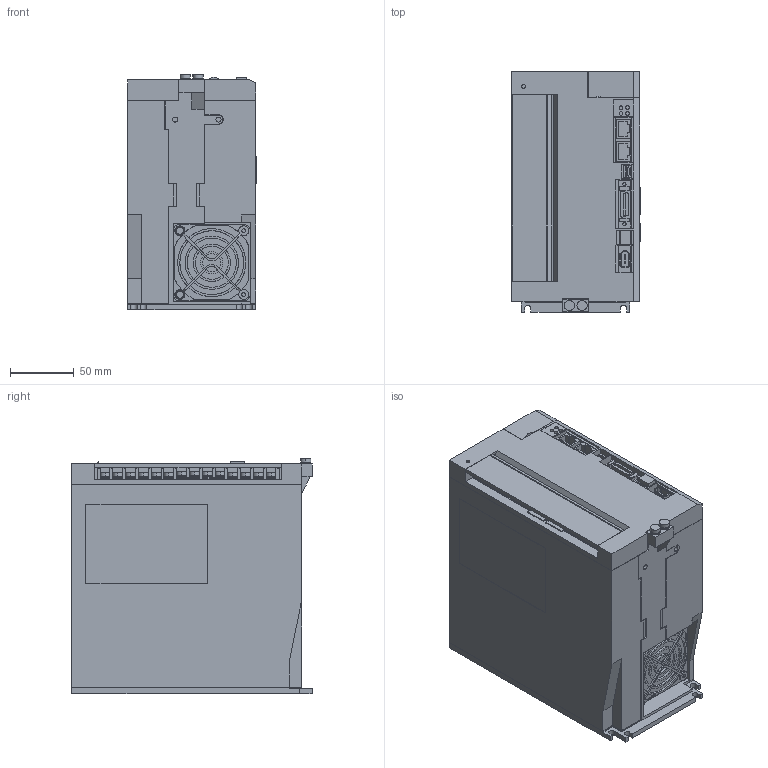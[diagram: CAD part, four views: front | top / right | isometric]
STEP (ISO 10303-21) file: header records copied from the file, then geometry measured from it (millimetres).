
FILE_DESCRIPTION (( 'STEP AP214' ), '1' );
FILE_NAME ('SGD7S_120AC0A008.STEP', '2019-04-09T12:20:49', ( '' ), ( '' ), 'SwSTEP 2.0', 'SolidWorks 2019', '' );
FILE_SCHEMA (( 'AUTOMOTIVE_DESIGN' ));
Length unit declared in the file: metre
Products named in the file (8): sgd7s_120ac0a008_cover3; sgd7s_120ac0a008_cover2; sgd7s_120ac0a008_terminal; sgd7s_120ac0a008_cover4; sgd7s_120ac0a008_connector; SGD7S_120AC0A008; sgd7s_120ac0a008_base; sgd7s_120ac0a008_cover
Assembly tree (9 placements, depth 2):
  SGD7S_120AC0A008
    sgd7s_120ac0a008_cover3
    sgd7s_120ac0a008_cover4
    sgd7s_120ac0a008_base
    sgd7s_120ac0a008_cover2  x2
    sgd7s_120ac0a008_connector
    sgd7s_120ac0a008_cover
    sgd7s_120ac0a008_terminal  x2
Bounding box: 100.5 x 188 x 184.6 mm (x, y, z)
Volume: 3109514.4 mm3; surface area: 198944.3 mm2
Topology: 9 solids, 9 shells, 1889 faces, 5034 edges, 3305 vertices
Faces by surface type: plane 1585, cylinder 303, bspline 1
Entity records: 57332 total; most frequent: CARTESIAN_POINT 10111, ORIENTED_EDGE 9864, DIRECTION 9375, EDGE_CURVE 4932, LINE 4197, VECTOR 4197, VERTEX_POINT 3237, AXIS2_PLACEMENT_3D 2589
